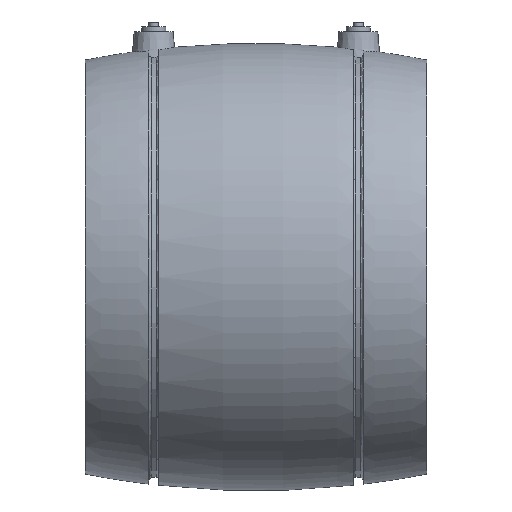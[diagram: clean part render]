
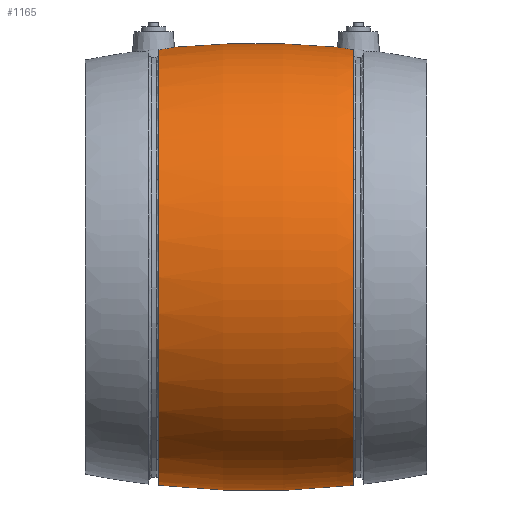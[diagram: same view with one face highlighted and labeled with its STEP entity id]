
A CAD part, front view. The second image highlights one B-rep face of the part: STEP entity #1165.
In plain terms, the highlighted toroidal (fillet/blend) face has major radius 136.612 mm and minor radius 182.5 mm.
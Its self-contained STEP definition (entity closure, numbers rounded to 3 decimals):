
#144 = CARTESIAN_POINT ( 'NONE',  ( 18.275, -37.5, 45.12 ) ) ;
#148 = CARTESIAN_POINT ( 'NONE',  ( 18.275, -37.985, 45.12 ) ) ;
#149 = CARTESIAN_POINT ( 'NONE',  ( 35., -37.5, -136.612 ) ) ;
#150 = DIRECTION ( 'NONE',  ( 0., -1., 0. ) ) ;
#151 = DIRECTION ( 'NONE',  ( 0., 0., -1. ) ) ;
#152 = CARTESIAN_POINT ( 'NONE',  ( 18.196, -38.457, 45.105 ) ) ;
#153 = CARTESIAN_POINT ( 'NONE',  ( 17.88, -39.373, 45.046 ) ) ;
#154 = CARTESIAN_POINT ( 'NONE',  ( 17.653, -39.792, 45.005 ) ) ;
#155 = CARTESIAN_POINT ( 'NONE',  ( 17.059, -40.552, 44.902 ) ) ;
#156 = CARTESIAN_POINT ( 'NONE',  ( 16.708, -40.873, 44.843 ) ) ;
#157 = CARTESIAN_POINT ( 'NONE',  ( 15.903, -41.397, 44.717 ) ) ;
#158 = CARTESIAN_POINT ( 'NONE',  ( 15.467, -41.587, 44.653 ) ) ;
#159 = CARTESIAN_POINT ( 'NONE',  ( 15., -41.703, 44.591 ) ) ;
#160 = CARTESIAN_POINT ( 'NONE',  ( 15., -37.5, 0. ) ) ;
#161 = DIRECTION ( 'NONE',  ( -1., 0., 0. ) ) ;
#162 = DIRECTION ( 'NONE',  ( 0., 0., 1. ) ) ;
#165 = CARTESIAN_POINT ( 'NONE',  ( 35., -37.5, 136.612 ) ) ;
#166 = DIRECTION ( 'NONE',  ( 0., -1., 0. ) ) ;
#167 = DIRECTION ( 'NONE',  ( 0., 0., -1. ) ) ;
#168 = CARTESIAN_POINT ( 'NONE',  ( 55., -41.703, 44.591 ) ) ;
#169 = CARTESIAN_POINT ( 'NONE',  ( 54.533, -41.587, 44.653 ) ) ;
#170 = CARTESIAN_POINT ( 'NONE',  ( 55., -37.5, 0. ) ) ;
#171 = DIRECTION ( 'NONE',  ( -1., 0., 0. ) ) ;
#172 = DIRECTION ( 'NONE',  ( 0., 0., 1. ) ) ;
#173 = CARTESIAN_POINT ( 'NONE',  ( 54.099, -41.397, 44.717 ) ) ;
#174 = CARTESIAN_POINT ( 'NONE',  ( 53.293, -40.874, 44.843 ) ) ;
#175 = CARTESIAN_POINT ( 'NONE',  ( 52.942, -40.552, 44.902 ) ) ;
#176 = CARTESIAN_POINT ( 'NONE',  ( 52.497, -39.984, 44.979 ) ) ;
#177 = CARTESIAN_POINT ( 'NONE',  ( 52.366, -39.783, 45.002 ) ) ;
#178 = CARTESIAN_POINT ( 'NONE',  ( 52.138, -39.364, 45.043 ) ) ;
#179 = CARTESIAN_POINT ( 'NONE',  ( 52.041, -39.145, 45.061 ) ) ;
#180 = CARTESIAN_POINT ( 'NONE',  ( 51.884, -38.689, 45.09 ) ) ;
#181 = CARTESIAN_POINT ( 'NONE',  ( 51.824, -38.455, 45.101 ) ) ;
#182 = CARTESIAN_POINT ( 'NONE',  ( 51.745, -37.982, 45.116 ) ) ;
#183 = CARTESIAN_POINT ( 'NONE',  ( 51.725, -37.743, 45.12 ) ) ;
#184 = CARTESIAN_POINT ( 'NONE',  ( 51.725, -37.5, 45.12 ) ) ;
#593 = CARTESIAN_POINT ( 'NONE',  ( 55., -41.703, 44.591 ) ) ;
#680 = VERTEX_POINT ( 'NONE', #1883 ) ;
#692 = VERTEX_POINT ( 'NONE', #1891 ) ;
#693 = VERTEX_POINT ( 'NONE', #1892 ) ;
#753 = VERTEX_POINT ( 'NONE', #1905 ) ;
#769 = VERTEX_POINT ( 'NONE', #1921 ) ;
#833 = EDGE_LOOP ( 'NONE', ( #1450, #1451, #1454, #1455, #1460, #1440 ) ) ;
#1165 = ADVANCED_FACE ( 'NONE', ( #2057 ), #2474, .T. ) ;
#1299 = EDGE_CURVE ( 'NONE', #769, #753, #1518, .T. ) ;
#1300 = EDGE_CURVE ( 'NONE', #753, #680, #1837, .T. ) ;
#1301 = EDGE_CURVE ( 'NONE', #693, #680, #1524, .T. ) ;
#1302 = EDGE_CURVE ( 'NONE', #693, #692, #1507, .T. ) ;
#1303 = EDGE_CURVE ( 'NONE', #692, #2416, #1521, .T. ) ;
#1304 = EDGE_CURVE ( 'NONE', #2416, #769, #1838, .T. ) ;
#1440 = ORIENTED_EDGE ( 'NONE', *, *, #1304, .T. ) ;
#1450 = ORIENTED_EDGE ( 'NONE', *, *, #1299, .T. ) ;
#1451 = ORIENTED_EDGE ( 'NONE', *, *, #1300, .T. ) ;
#1454 = ORIENTED_EDGE ( 'NONE', *, *, #1301, .F. ) ;
#1455 = ORIENTED_EDGE ( 'NONE', *, *, #1302, .T. ) ;
#1460 = ORIENTED_EDGE ( 'NONE', *, *, #1303, .T. ) ;
#1507 = CIRCLE ( 'NONE', #1520, 182.5 ) ;
#1516 = AXIS2_PLACEMENT_3D ( 'NONE', #170, #171, #172 ) ;
#1518 = CIRCLE ( 'NONE', #1525, 182.5 ) ;
#1520 = AXIS2_PLACEMENT_3D ( 'NONE', #165, #166, #167 ) ;
#1521 = CIRCLE ( 'NONE', #1516, 44.788 ) ;
#1523 = AXIS2_PLACEMENT_3D ( 'NONE', #160, #161, #162 ) ;
#1524 = CIRCLE ( 'NONE', #1523, 44.788 ) ;
#1525 = AXIS2_PLACEMENT_3D ( 'NONE', #149, #150, #151 ) ;
#1837 = B_SPLINE_CURVE_WITH_KNOTS ( 'NONE', 3,
 ( #144, #148, #152, #153, #154, #155, #156, #157, #158, #159 ),
 .UNSPECIFIED., .F., .F.,
 ( 4, 2, 2, 2, 4 ),
 ( 0., 0.001, 0.003, 0.004, 0.006 ),
 .UNSPECIFIED. ) ;
#1838 = B_SPLINE_CURVE_WITH_KNOTS ( 'NONE', 3,
 ( #168, #169, #173, #174, #175, #176, #177, #178, #179, #180, #181, #182, #183, #184 ),
 .UNSPECIFIED., .F., .F.,
 ( 4, 2, 2, 2, 2, 2, 4 ),
 ( 0., 0.001, 0.003, 0.004, 0.004, 0.005, 0.006 ),
 .UNSPECIFIED. ) ;
#1883 = CARTESIAN_POINT ( 'NONE',  ( 15., -41.703, 44.591 ) ) ;
#1891 = CARTESIAN_POINT ( 'NONE',  ( 55., -37.5, -44.788 ) ) ;
#1892 = CARTESIAN_POINT ( 'NONE',  ( 15., -37.5, -44.788 ) ) ;
#1905 = CARTESIAN_POINT ( 'NONE',  ( 18.275, -37.5, 45.12 ) ) ;
#1921 = CARTESIAN_POINT ( 'NONE',  ( 51.725, -37.5, 45.12 ) ) ;
#2050 = DIRECTION ( 'NONE',  ( -1., 0., 0. ) ) ;
#2057 = FACE_OUTER_BOUND ( 'NONE', #833, .T. ) ;
#2058 = CARTESIAN_POINT ( 'NONE',  ( 35., -37.5, 0. ) ) ;
#2061 = DIRECTION ( 'NONE',  ( 0., 0., 1. ) ) ;
#2416 = VERTEX_POINT ( 'NONE', #593 ) ;
#2439 = AXIS2_PLACEMENT_3D ( 'NONE', #2058, #2050, #2061 ) ;
#2474 = TOROIDAL_SURFACE ( 'NONE', #2439, -136.612, 182.5 ) ;
